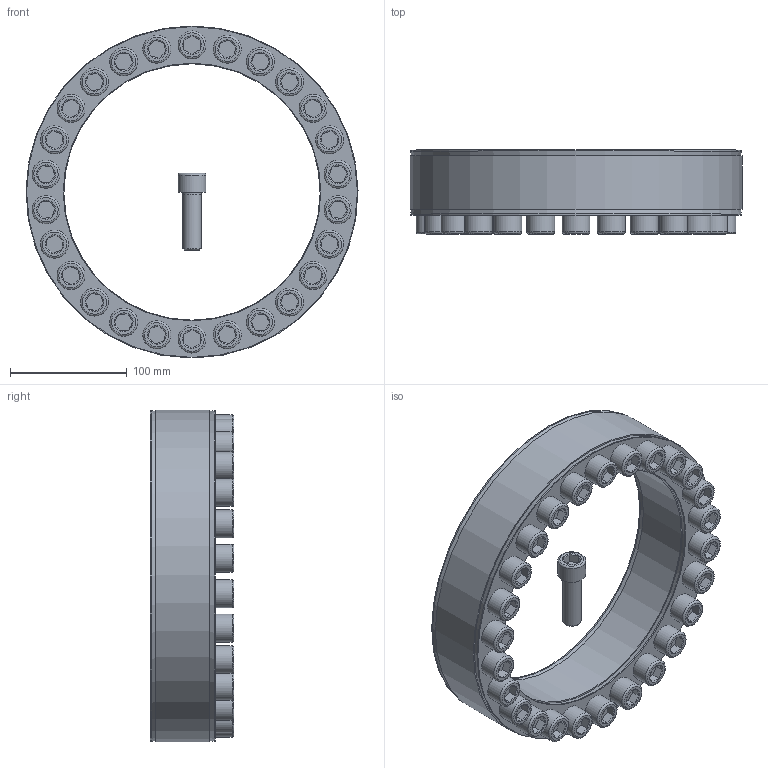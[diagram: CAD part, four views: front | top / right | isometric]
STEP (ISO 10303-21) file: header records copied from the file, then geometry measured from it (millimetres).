
FILE_DESCRIPTION( ( 'Unknown' ), '1' );
FILE_NAME( 'C:/Dokumente und Einstellungen/Sven/Desktop/homepage/cad - homepage/KBS40/KBS 40 - 220 x 285.stp', 'Unknown', ( 'Unknown' ), ( 'Unknown' ), 'XStep 1.0', 'Unknown', ' ' );
FILE_SCHEMA( ( 'automotive_design' ) );
Length unit declared in the file: millimetre
Products named in the file (28): Assem1; KBS 40 220x285; ISO 4762 M16x50; ISO 4762 M16x50-oa0; ISO 4762 M16x50-oa1; ISO 4762 M16x50-oa2; ISO 4762 M16x50-oa3; ISO 4762 M16x50-oa4; ISO 4762 M16x50-oa5; ISO 4762 M16x50-oa6; ISO 4762 M16x50-oa7; ISO 4762 M16x50-oa8; ISO 4762 M16x50-oa9; ISO 4762 M16x50-oa10; ISO 4762 M16x50-oa11; ISO 4762 M16x50-oa12; ISO 4762 M16x50-oa13; ISO 4762 M16x50-oa14; ISO 4762 M16x50-oa15; ISO 4762 M16x50-oa16; ISO 4762 M16x50-oa17; ISO 4762 M16x50-oa18; ISO 4762 M16x50-oa19; ISO 4762 M16x50-oa20; ISO 4762 M16x50-oa21; ISO 4762 M16x50-oa22; ISO 4762 M16x50-oa23; ISO 4762 M16x50-oa24
Bounding box: 284.99 x 72 x 284.98 mm (x, y, z)
Volume: 3097735.9 mm3; surface area: 673925.2 mm2
Topology: 54 solids, 54 shells, 1412 faces, 2584 edges, 1488 vertices
Faces by surface type: plane 664, cone 372, cylinder 272, torus 104
Full cylindrical faces by diameter (mm): 13 x52, 16 x156, 24 x52, 221 x4, 284 x4
Entity records: 17637 total; most frequent: CARTESIAN_POINT 4162, DIRECTION 2848, ORIENTED_EDGE 2044, AXIS2_PLACEMENT_3D 1248, EDGE_LOOP 1080, EDGE_CURVE 1022, FACE_OUTER_BOUND 892, ADVANCED_FACE 706
